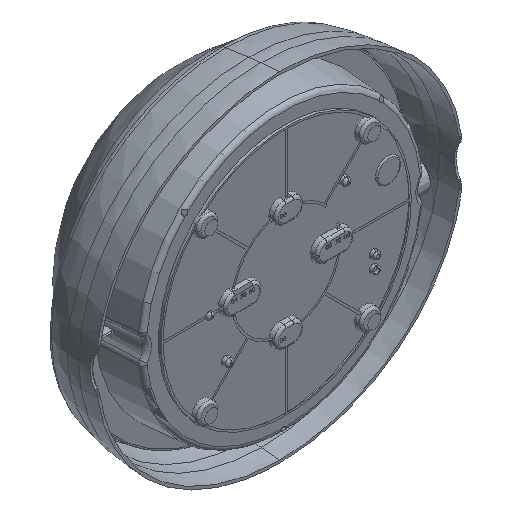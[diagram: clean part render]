
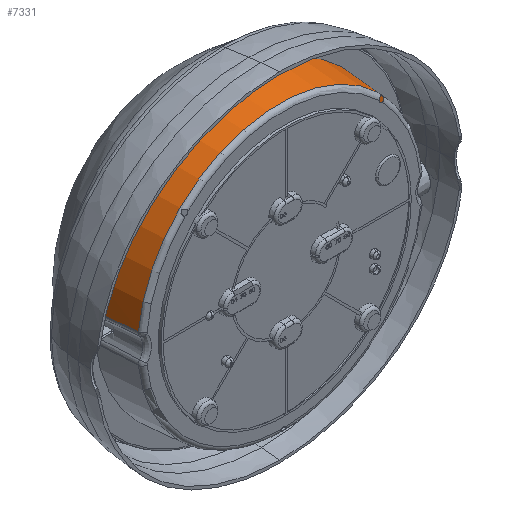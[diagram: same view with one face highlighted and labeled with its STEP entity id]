
A CAD part, isometric view. The second image highlights one B-rep face of the part: STEP entity #7331.
In plain terms, the highlighted conical face has half-angle 4 degrees and reference radius 111.908 mm.
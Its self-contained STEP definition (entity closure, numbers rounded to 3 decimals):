
#16=CARTESIAN_POINT('',(111.278,-16.744,11.085));
#17=CARTESIAN_POINT('',(111.261,-16.893,11.155));
#18=CARTESIAN_POINT('',(111.226,-17.194,11.29));
#19=CARTESIAN_POINT('',(111.175,-17.654,11.474));
#20=CARTESIAN_POINT('',(111.125,-18.121,11.639));
#21=CARTESIAN_POINT('',(111.076,-18.594,11.785));
#22=CARTESIAN_POINT('',(111.029,-19.072,11.912));
#23=CARTESIAN_POINT('',(110.984,-19.554,12.019));
#24=CARTESIAN_POINT('',(110.94,-20.041,12.108));
#25=CARTESIAN_POINT('',(110.898,-20.53,12.176));
#26=CARTESIAN_POINT('',(110.858,-21.021,12.225));
#27=CARTESIAN_POINT('',(110.82,-21.514,12.254));
#28=CARTESIAN_POINT('',(110.784,-22.007,12.263));
#29=CARTESIAN_POINT('',(110.751,-22.5,12.253));
#30=CARTESIAN_POINT('',(110.72,-22.991,12.223));
#31=CARTESIAN_POINT('',(110.691,-23.481,12.174));
#32=CARTESIAN_POINT('',(110.664,-23.968,12.105));
#33=CARTESIAN_POINT('',(110.64,-24.451,12.016));
#34=CARTESIAN_POINT('',(110.618,-24.931,11.909));
#35=CARTESIAN_POINT('',(110.598,-25.405,11.782));
#36=CARTESIAN_POINT('',(110.58,-25.874,11.637));
#37=CARTESIAN_POINT('',(110.565,-26.337,11.473));
#38=CARTESIAN_POINT('',(110.556,-26.64,11.352));
#39=CARTESIAN_POINT('',(110.552,-26.791,11.288));
#41=CARTESIAN_POINT('',(0.,0.,0.));
#42=DIRECTION('',(0.,1.,0.));
#43=DIRECTION('',(-0.995,0.,0.095));
#44=AXIS2_PLACEMENT_3D('',#41,#42,#43);
#182=CARTESIAN_POINT('',(-112.489,0.,
10.731));
#183=CARTESIAN_POINT('',(-112.235,-3.511,10.807));
#184=CARTESIAN_POINT('',(-111.729,-10.508,10.957));
#185=CARTESIAN_POINT('',(-110.976,-20.922,11.171));
#186=CARTESIAN_POINT('',(-110.478,-27.812,11.309));
#187=CARTESIAN_POINT('',(-110.23,-31.244,11.377));
#242=CARTESIAN_POINT('',(111.278,-16.744,11.085));
#244=CARTESIAN_POINT('',(111.278,-16.744,11.085));
#245=CARTESIAN_POINT('',(111.412,-14.895,11.047));
#246=CARTESIAN_POINT('',(111.68,-11.189,10.97));
#247=CARTESIAN_POINT('',(112.084,-5.608,10.852));
#248=CARTESIAN_POINT('',(112.354,-1.872,10.772));
#249=CARTESIAN_POINT('',(112.489,0.,10.731));
#251=CARTESIAN_POINT('',(112.489,0.,10.731));
#326=CARTESIAN_POINT('',(110.552,-26.791,11.288));
#345=CARTESIAN_POINT('',(110.23,-31.244,11.377));
#346=CARTESIAN_POINT('',(110.265,-30.75,11.367));
#347=CARTESIAN_POINT('',(110.337,-29.762,11.347));
#348=CARTESIAN_POINT('',(110.444,-28.277,11.318));
#349=CARTESIAN_POINT('',(110.516,-27.286,11.298));
#350=CARTESIAN_POINT('',(110.552,-26.791,11.288));
#871=CARTESIAN_POINT('',(0.,-31.244,0.));
#872=DIRECTION('',(0.,1.,0.));
#873=DIRECTION('',(-0.995,0.,0.103));
#874=AXIS2_PLACEMENT_3D('',#871,#872,#873);
#5843=VERTEX_POINT('',#251);
#5847=CARTESIAN_POINT('',(-112.489,0.,
10.731));
#5848=VERTEX_POINT('',#5847);
#5853=CARTESIAN_POINT('',(-110.23,-31.244,
11.377));
#5854=CARTESIAN_POINT('',(110.23,-31.244,11.377));
#5855=VERTEX_POINT('',#5853);
#5856=VERTEX_POINT('',#5854);
#5880=VERTEX_POINT('',#242);
#5987=VERTEX_POINT('',#326);
#7312=CARTESIAN_POINT('',(0.,-15.622,0.));
#7313=DIRECTION('',(0.,1.,0.));
#7314=DIRECTION('',(1.,0.,0.));
#7315=AXIS2_PLACEMENT_3D('',#7312,#7313,#7314);
#7316=CONICAL_SURFACE('',#7315,111.908,4.);
#7318=ORIENTED_EDGE('',*,*,#7317,.T.);
#7320=ORIENTED_EDGE('',*,*,#7319,.F.);
#7322=ORIENTED_EDGE('',*,*,#7321,.F.);
#7324=ORIENTED_EDGE('',*,*,#7323,.F.);
#7326=ORIENTED_EDGE('',*,*,#7325,.T.);
#7328=ORIENTED_EDGE('',*,*,#7327,.F.);
#7329=EDGE_LOOP('',(#7318,#7320,#7322,#7324,#7326,#7328));
#7330=FACE_OUTER_BOUND('',#7329,.F.);
#7331=ADVANCED_FACE('',(#7330),#7316,.T.);
#40=B_SPLINE_CURVE_WITH_KNOTS('',3,(#16,#17,#18,#19,#20,#21,#22,#23,#24,#25,#26,
#27,#28,#29,#30,#31,#32,#33,#34,#35,#36,#37,#38,#39),.UNSPECIFIED.,.F.,.F.,(4,1,
1,1,1,1,1,1,1,1,1,1,1,1,1,1,1,1,1,1,1,4),(0.,0.048,
0.095,0.143,0.19,0.238,
0.286,0.333,0.381,0.429,
0.476,0.524,0.571,0.619,
0.667,0.714,0.762,0.81,
0.857,0.905,0.952,1.),.UNSPECIFIED.);
#45=CIRCLE('',#44,113.);
#188=B_SPLINE_CURVE_WITH_KNOTS('',3,(#182,#183,#184,#185,#186,#187),
.UNSPECIFIED.,.F.,.F.,(4,1,1,4),(0.,0.333,0.667,1.),
.UNSPECIFIED.);
#250=B_SPLINE_CURVE_WITH_KNOTS('',3,(#244,#245,#246,#247,#248,#249),
.UNSPECIFIED.,.F.,.F.,(4,1,1,4),(0.,0.333,0.667,1.),
.UNSPECIFIED.);
#351=B_SPLINE_CURVE_WITH_KNOTS('',3,(#345,#346,#347,#348,#349,#350),
.UNSPECIFIED.,.F.,.F.,(4,1,1,4),(0.,0.333,0.667,1.),
.UNSPECIFIED.);
#875=CIRCLE('',#874,110.815);
#7317=EDGE_CURVE('',#5880,#5987,#40,.T.);
#7319=EDGE_CURVE('',#5856,#5987,#351,.T.);
#7321=EDGE_CURVE('',#5855,#5856,#875,.T.);
#7323=EDGE_CURVE('',#5848,#5855,#188,.T.);
#7325=EDGE_CURVE('',#5848,#5843,#45,.T.);
#7327=EDGE_CURVE('',#5880,#5843,#250,.T.);
